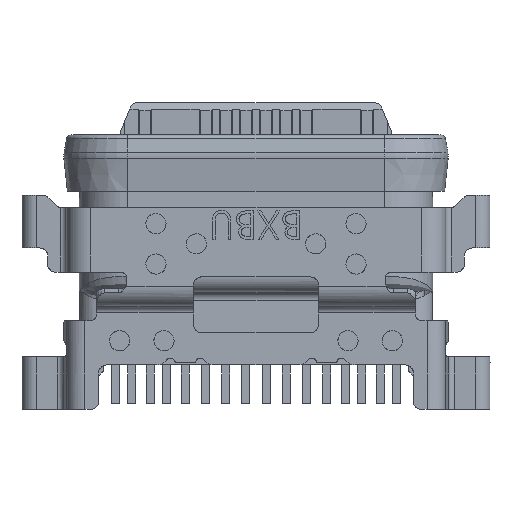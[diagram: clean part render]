
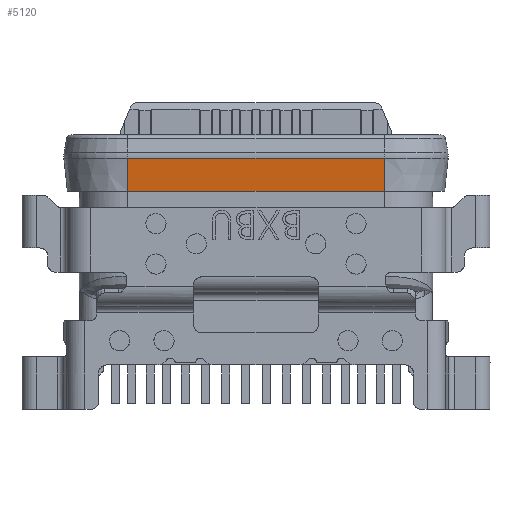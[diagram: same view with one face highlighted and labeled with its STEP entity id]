
A CAD part, front view. The second image highlights one B-rep face of the part: STEP entity #5120.
In plain terms, the highlighted planar face has unit normal (0, -0.995, -0.105).
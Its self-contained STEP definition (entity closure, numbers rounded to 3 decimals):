
#227 = VECTOR ( 'NONE', #23488, 1000. ) ;
#800 = VECTOR ( 'NONE', #9314, 1000. ) ;
#1198 = LINE ( 'NONE', #31693, #800 ) ;
#1265 = LINE ( 'NONE', #28540, #227 ) ;
#1699 = FACE_OUTER_BOUND ( 'NONE', #14566, .T. ) ;
#4726 = VERTEX_POINT ( 'NONE', #11011 ) ;
#4993 = DIRECTION ( 'NONE',  ( 0., -0.105, 0.994 ) ) ;
#5120 = ADVANCED_FACE ( 'NONE', ( #1699 ), #26696, .F. ) ;
#5246 = CARTESIAN_POINT ( 'NONE',  ( 3.175, -1.867, 3.178 ) ) ;
#6396 = ORIENTED_EDGE ( 'NONE', *, *, #27008, .T. ) ;
#7089 = EDGE_CURVE ( 'NONE', #29340, #12692, #29976, .T. ) ;
#8726 = CARTESIAN_POINT ( 'NONE',  ( -3.175, -1.867, 3.178 ) ) ;
#9056 = LINE ( 'NONE', #18932, #12242 ) ;
#9314 = DIRECTION ( 'NONE',  ( -1., 0., 0. ) ) ;
#9536 = DIRECTION ( 'NONE',  ( 0., 0.105, -0.994 ) ) ;
#9545 = EDGE_CURVE ( 'NONE', #21503, #4726, #9056, .T. ) ;
#11011 = CARTESIAN_POINT ( 'NONE',  ( -3.175, -1.78, 2.35 ) ) ;
#11619 = CARTESIAN_POINT ( 'NONE',  ( 0., -1.824, 2.764 ) ) ;
#12242 = VECTOR ( 'NONE', #9536, 1000. ) ;
#12460 = CARTESIAN_POINT ( 'NONE',  ( 3.175, -1.78, 2.35 ) ) ;
#12692 = VERTEX_POINT ( 'NONE', #5246 ) ;
#13847 = CARTESIAN_POINT ( 'NONE',  ( 3.175, -1.78, 2.35 ) ) ;
#14258 = VECTOR ( 'NONE', #4993, 1000. ) ;
#14566 = EDGE_LOOP ( 'NONE', ( #6396, #26705, #29998, #27998 ) ) ;
#16151 = DIRECTION ( 'NONE',  ( 1., 0., 0. ) ) ;
#18583 = DIRECTION ( 'NONE',  ( 0., 0.994, 0.105 ) ) ;
#18932 = CARTESIAN_POINT ( 'NONE',  ( -3.175, -1.867, 3.178 ) ) ;
#21503 = VERTEX_POINT ( 'NONE', #8726 ) ;
#23488 = DIRECTION ( 'NONE',  ( 1., 0., 0. ) ) ;
#26696 = PLANE ( 'NONE',  #31949 ) ;
#26705 = ORIENTED_EDGE ( 'NONE', *, *, #7089, .T. ) ;
#27008 = EDGE_CURVE ( 'NONE', #4726, #29340, #1265, .T. ) ;
#27998 = ORIENTED_EDGE ( 'NONE', *, *, #9545, .T. ) ;
#28540 = CARTESIAN_POINT ( 'NONE',  ( -3.175, -1.78, 2.35 ) ) ;
#29340 = VERTEX_POINT ( 'NONE', #13847 ) ;
#29976 = LINE ( 'NONE', #12460, #14258 ) ;
#29998 = ORIENTED_EDGE ( 'NONE', *, *, #30238, .T. ) ;
#30238 = EDGE_CURVE ( 'NONE', #12692, #21503, #1198, .T. ) ;
#31693 = CARTESIAN_POINT ( 'NONE',  ( 3.175, -1.867, 3.178 ) ) ;
#31949 = AXIS2_PLACEMENT_3D ( 'NONE', #11619, #18583, #16151 ) ;
